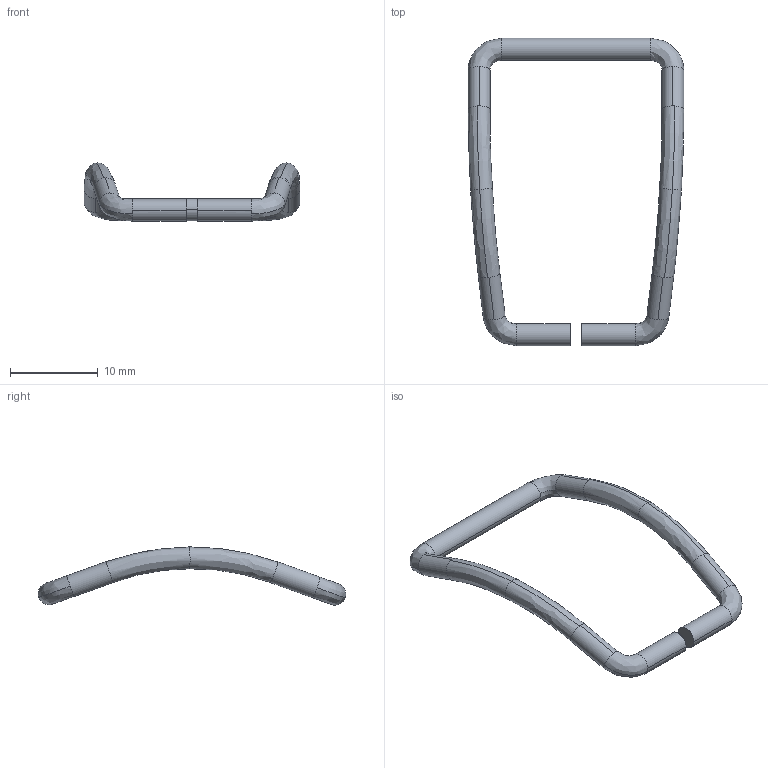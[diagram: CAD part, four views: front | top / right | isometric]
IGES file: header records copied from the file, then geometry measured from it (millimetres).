
Start section: SolidWorks IGES FILE using analytic representation for surfaces
Global section: file name: C:\WINNT\Profiles\cbrechard\Bureau\GE 11\11.200.10.IGS; native system: SolidWorks 2001Plus by SolidWorks Corporation; preprocessor: Version 5.3; author: CBRECHARD; date: 050124.103726; units: millimetre
Bounding box: 24.62 x 35.08 x 6.65 mm (x, y, z)
Surface area: 818.6 mm2 (no closed solid volume)
Topology: 0 solids, 0 shells, 32 faces, 232 edges, 232 vertices
Faces by surface type: bspline 18, revolution 14
